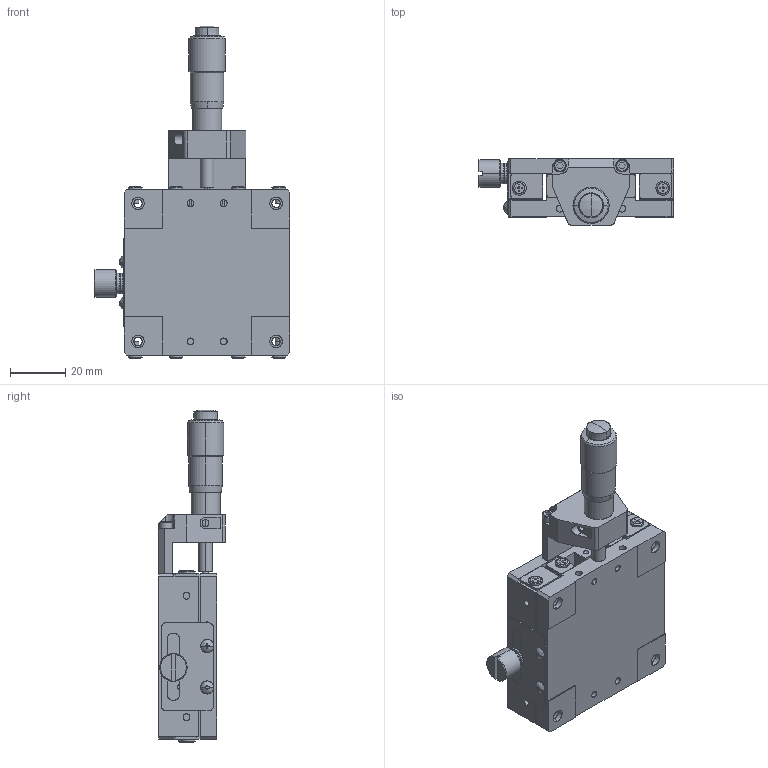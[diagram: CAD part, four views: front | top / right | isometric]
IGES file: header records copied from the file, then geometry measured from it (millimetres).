
Start section: SolidWorks IGES file using analytic representation for surfaces
Global section: file name: E:\0产品2d3d图纸-20180629\0-3种格式文件\产品图纸3d\08PBL\60\PBL-661CRZ.IGS; native system: SolidWorks 2015; preprocessor: SolidWorks 2015; author: Administrator; date: 180724.162223; units: millimetre
Bounding box: 70.9 x 24 x 120.24 mm (x, y, z)
Surface area: 46839.7 mm2 (no closed solid volume)
Topology: 0 solids, 0 shells, 1005 faces, 18177 edges, 17989 vertices
Faces by surface type: revolution 524, bspline 481
